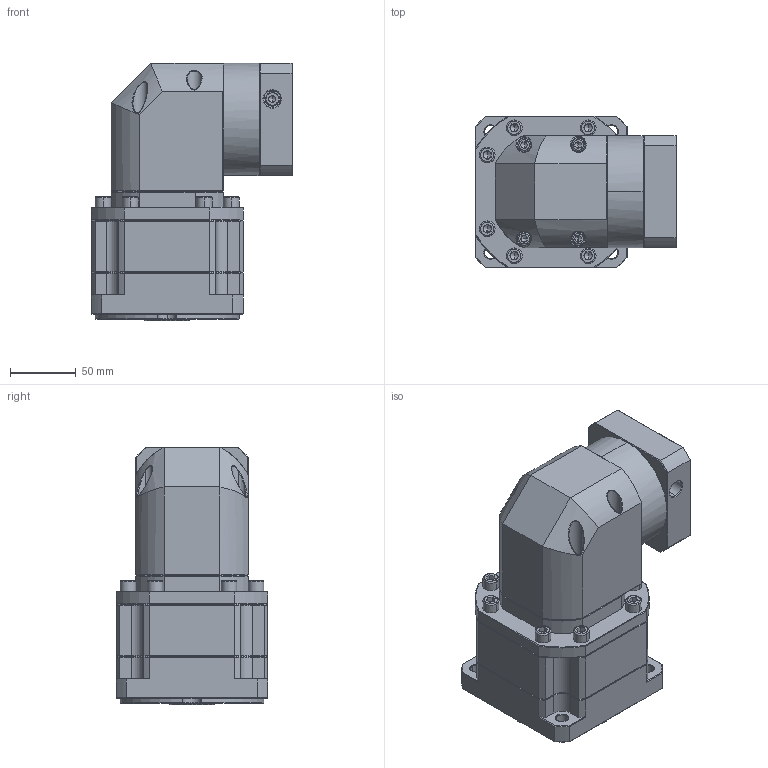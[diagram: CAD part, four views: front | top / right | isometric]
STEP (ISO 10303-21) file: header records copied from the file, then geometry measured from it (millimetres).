
FILE_DESCRIPTION (( 'STEP AP214' ), '1' );
FILE_NAME ('ZB115A-K25-L2-P2-14-50-70-M5.step', '2023-08-26T13:31:39', ( '' ), ( '' ), 'SwSTEP 2.0', 'SolidWorks 2016', '' );
FILE_SCHEMA (( 'AUTOMOTIVE_DESIGN' ));
Length unit declared in the file: millimetre
Products named in the file (1): ZB115A-K25-L2-P2-14-50-70-M5
Bounding box: 152.6 x 115 x 195 mm (x, y, z)
Volume: 1917243.4 mm3; surface area: 174019.2 mm2
Topology: 6 solids, 6 shells, 2390 faces, 6126 edges, 3849 vertices
Faces by surface type: plane 1266, bspline 430, cone 359, cylinder 321, torus 14
Entity records: 116240 total; most frequent: CARTESIAN_POINT 34825, ORIENTED_EDGE 12148, DIRECTION 10027, EDGE_CURVE 6074, VECTOR 4075, LINE 4075, VERTEX_POINT 3849, AXIS2_PLACEMENT_3D 2976
